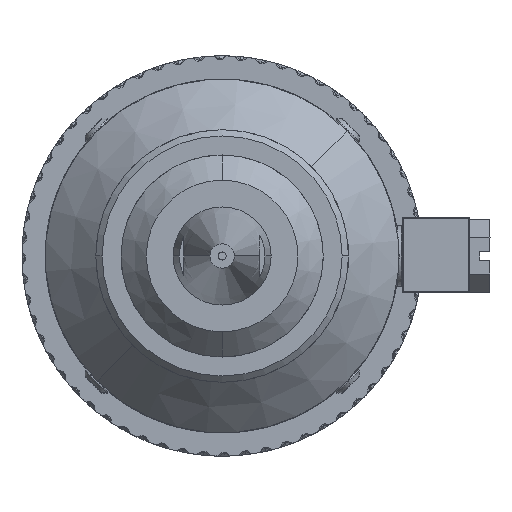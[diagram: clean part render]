
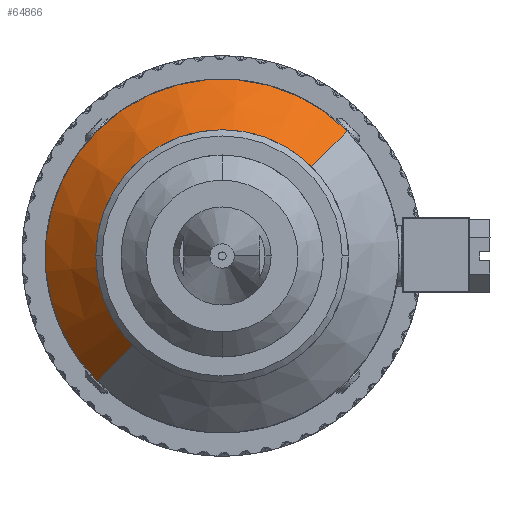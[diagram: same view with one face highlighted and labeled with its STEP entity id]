
A CAD part, front view. The second image highlights one B-rep face of the part: STEP entity #64866.
In plain terms, the highlighted conical face has half-angle 45 degrees and reference radius 15.875 mm.
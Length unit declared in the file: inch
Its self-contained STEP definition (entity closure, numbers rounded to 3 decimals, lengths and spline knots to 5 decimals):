
#1870 = CARTESIAN_POINT ( 'NONE',  ( -0.63716, 0.2429, -0.59816 ) ) ;
#3412 = CARTESIAN_POINT ( 'NONE',  ( -0.01844, -0.0071, 0.02056 ) ) ;
#5311 = EDGE_LOOP ( 'NONE', ( #27312, #68079, #57227, #25254 ) ) ;
#6648 = VERTEX_POINT ( 'NONE', #14347 ) ;
#14347 = CARTESIAN_POINT ( 'NONE',  ( 0.60028, 0.2429, 0.63927 ) ) ;
#14510 = CIRCLE ( 'NONE', #42617, 0.625 ) ;
#15070 = VECTOR ( 'NONE', #17789, 39.37008 ) ;
#16627 = DIRECTION ( 'NONE',  ( 0., -1., 0. ) ) ;
#17789 = DIRECTION ( 'NONE',  ( -0.5, 0.707, -0.5 ) ) ;
#22932 = CARTESIAN_POINT ( 'NONE',  ( -0.46039, -0.0071, -0.42139 ) ) ;
#23270 = AXIS2_PLACEMENT_3D ( 'NONE', #58388, #16627, #58132 ) ;
#25254 = ORIENTED_EDGE ( 'NONE', *, *, #38276, .F. ) ;
#25675 = AXIS2_PLACEMENT_3D ( 'NONE', #55020, #54507, #66827 ) ;
#27312 = ORIENTED_EDGE ( 'NONE', *, *, #63642, .F. ) ;
#27682 = DIRECTION ( 'NONE',  ( 0., -1., 0. ) ) ;
#27752 = VERTEX_POINT ( 'NONE', #1870 ) ;
#27815 = DIRECTION ( 'NONE',  ( 0.5, 0.707, 0.5 ) ) ;
#29305 = EDGE_CURVE ( 'NONE', #74800, #6648, #55190, .T. ) ;
#29419 = VERTEX_POINT ( 'NONE', #62728 ) ;
#30318 = EDGE_CURVE ( 'NONE', #6648, #27752, #39363, .T. ) ;
#32358 = VECTOR ( 'NONE', #27815, 39.37008 ) ;
#37592 = CARTESIAN_POINT ( 'NONE',  ( 0.4235, -0.0071, 0.4625 ) ) ;
#38143 = CARTESIAN_POINT ( 'NONE',  ( 0.4235, -0.0071, 0.4625 ) ) ;
#38276 = EDGE_CURVE ( 'NONE', #29419, #27752, #68210, .T. ) ;
#39363 = CIRCLE ( 'NONE', #23270, 0.875 ) ;
#41931 = FACE_OUTER_BOUND ( 'NONE', #5311, .T. ) ;
#42617 = AXIS2_PLACEMENT_3D ( 'NONE', #3412, #27682, #44604 ) ;
#44604 = DIRECTION ( 'NONE',  ( 0.707, 0., 0.707 ) ) ;
#54507 = DIRECTION ( 'NONE',  ( 0., 1., 0. ) ) ;
#55020 = CARTESIAN_POINT ( 'NONE',  ( -0.01844, -0.0071, 0.02056 ) ) ;
#55190 = LINE ( 'NONE', #37592, #32358 ) ;
#57227 = ORIENTED_EDGE ( 'NONE', *, *, #30318, .T. ) ;
#58132 = DIRECTION ( 'NONE',  ( 0.707, 0., 0.707 ) ) ;
#58388 = CARTESIAN_POINT ( 'NONE',  ( -0.01844, 0.2429, 0.02056 ) ) ;
#62728 = CARTESIAN_POINT ( 'NONE',  ( -0.46039, -0.0071, -0.42139 ) ) ;
#63642 = EDGE_CURVE ( 'NONE', #74800, #29419, #14510, .T. ) ;
#64866 = ADVANCED_FACE ( 'NONE', ( #41931 ), #74065, .T. ) ;
#66827 = DIRECTION ( 'NONE',  ( -0.707, 0., -0.707 ) ) ;
#68079 = ORIENTED_EDGE ( 'NONE', *, *, #29305, .T. ) ;
#68210 = LINE ( 'NONE', #22932, #15070 ) ;
#74065 = CONICAL_SURFACE ( 'NONE', #25675, 0.625, 0.785 ) ;
#74800 = VERTEX_POINT ( 'NONE', #38143 ) ;
